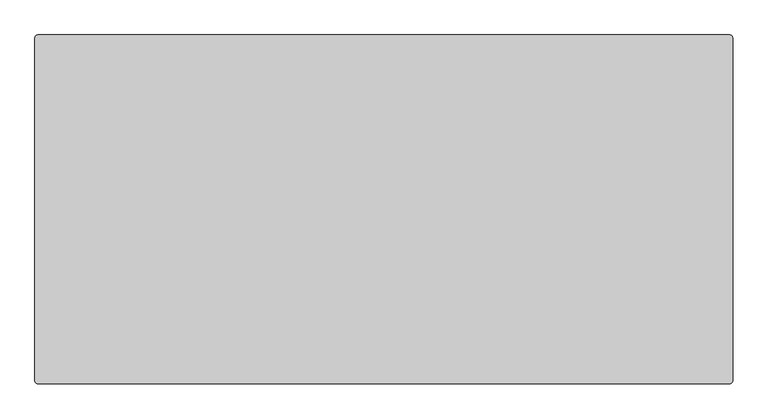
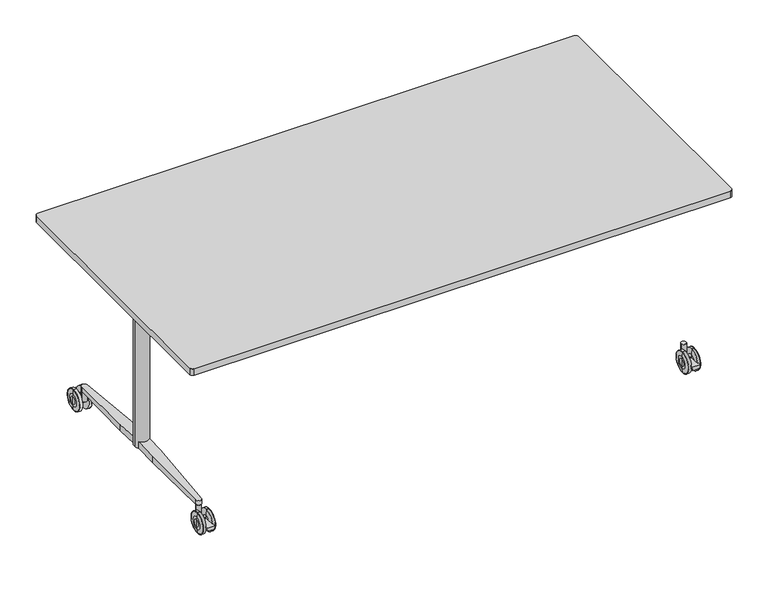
"""IFC4 building model written with IfcOpenShell, lengths in millimetres: furniture geometry."""

from ifc_helpers import new_model, si_unit, point, frame, frame_2d, origin, place, context, project, spatial, polyline, circle_curve, ellipse_curve, trimmed, segment, composite_curve, outline, extrude, source, transform, mapped, element, save
from ifc_brep_helpers import plane_surface, cylinder_surface, revolved_surface, advanced_brep


def furniture_c1721f13(model_context):
    return source(origin(), model_context, "Body", "SolidModel", [
        extrude(outline(composite_curve([segment(trimmed(circle_curve(frame_2d((-990.0, 615.9511544)), 10.0), [point((-1000.0, 615.9511544))], [point((-990.0, 625.9511544))], False, "CARTESIAN"), True, "CONTINUOUS"), segment(polyline([(-990.0, 625.9511544), (990.0, 625.9511544)]), True, "CONTINUOUS"), segment(trimmed(circle_curve(frame_2d((990.0, 615.9511544)), 10.0), [point((990.0, 625.9511544))], [point((1000.0, 615.9511544))], False, "CARTESIAN"), True, "CONTINUOUS"), segment(polyline([(1000.0, 615.9511544), (1000.0, -364.0488456)]), True, "CONTINUOUS"), segment(trimmed(circle_curve(frame_2d((990.0, -364.0488456)), 10.0), [point((1000.0, -364.0488456))], [point((990.0, -374.0488456))], False, "CARTESIAN"), True, "CONTINUOUS"), segment(polyline([(990.0, -374.0488456), (-990.0, -374.0488456)]), True, "CONTINUOUS"), segment(trimmed(circle_curve(frame_2d((-990.0, -364.0488456)), 10.0), [point((-990.0, -374.0488456))], [point((-1000.0, -364.0488456))], False, "CARTESIAN"), True, "CONTINUOUS"), segment(polyline([(-1000.0, -364.0488456), (-1000.0, 615.9511544)]), True, "CONTINUOUS")], self_intersect=False)), frame((0.0, 0.0, 705.0), z_axis=(0.0, 0.0, 1.0), x_axis=(1.0, 0.0, 0.0)), (0.0, 0.0, 1.0), 25.0),
        extrude(outline(polyline([(46.8012701, -909.9796901), (33.7579803, -907.2784737), (33.7579803, -883.5602115), (46.8012701, -880.8589951), (46.8012701, -909.9796901)])), frame((0.0, -319.0488456, 0.0), z_axis=(0.0, 1.0, 0.0), x_axis=(0.0, 0.0, 1.0)), (0.0, 0.0, 1.0), 50.0),
        extrude(outline(composite_curve([segment(trimmed(circle_curve(frame_2d((-895.5388896, -238.8396127)), 9.5), [point((-905.0388896, -238.8396127))], [point((-886.0388896, -238.8396127))], False, "CARTESIAN"), True, "CONTINUOUS"), segment(trimmed(circle_curve(frame_2d((-895.5388896, -238.8396127)), 9.5), [point((-886.0388896, -238.8396127))], [point((-905.0388896, -238.8396127))], False, "CARTESIAN"), True, "CONTINUOUS")], self_intersect=False)), frame((0.0, 0.0, 50.0000143), z_axis=(0.0, 0.0, 1.0), x_axis=(1.0, 0.0, 0.0)), (0.0, 0.0, 1.0), 38.8098324),
        advanced_brep(
        [(-870.4530674, -269.0488456, 26.9613134), (-870.4530674, -269.0488456, 53.0387194), (-870.4530674, -269.0488456, 40.0000164), (-872.5845915, -269.0488456, 0.8972162), (-872.5845915, -269.0488456, 79.1028166), (-871.0121742, -269.0488456, 63.8876748), (-871.0121742, -269.0488456, 16.1123581), (-883.5439759, -269.0488456, 1.43e-05), (-883.5439759, -269.0488456, 80.0000185), (-873.5792938, -269.0488456, 80.0000185), (-873.5792938, -269.0488456, 1.43e-05), (-885.4530966, -269.0488456, 20.9999281), (-885.4530966, -269.0488456, 59.0001048), (-885.4530966, -269.0488456, 32.3463502), (-885.4530966, -269.0488456, 47.6536826), (-905.3531174, -269.0488456, 32.3463502), (-905.3531174, -269.0488456, 47.6536826), (-905.3531174, -269.0488456, 20.9999281), (-905.3531174, -269.0488456, 59.0001048), (-907.2622381, -269.0488456, 1.43e-05), (-907.2622381, -269.0488456, 80.0000185), (-916.3249398, -269.0488456, 1.43e-05), (-916.3249398, -269.0488456, 80.0000185), (-919.7942336, -269.0488456, 16.1142331), (-919.7942336, -269.0488456, 63.8857997), (-918.3143443, -269.0488456, 78.2056147), (-918.3143443, -269.0488456, 1.7944182), (-920.3531466, -269.0488456, 40.0000164), (-920.3531466, -269.0488456, 53.0406045), (-920.3531466, -269.0488456, 26.9594284)],
        [
            (0, 1, circle_curve(frame((-870.4530674, -269.0488456, 40.0000164), z_axis=(1.0, 0.0, 0.0), x_axis=(0.0, 0.0, 1.0)), 13.038703)),
            (1, 2),
            (2, 0),
            (1, 0, circle_curve(frame((-870.4530674, -269.0488456, 40.0000164), z_axis=(1.0, 0.0, 0.0), x_axis=(0.0, 0.0, 1.0)), 13.038703)),
            (3, 4, circle_curve(frame((-872.5845915, -269.0488456, 40.0000164), z_axis=(1.0, 0.0, 0.0), x_axis=(0.0, 0.0, 1.0)), 39.1028002)),
            (4, 5),
            (5, 6, circle_curve(frame((-871.0121742, -269.0488456, 40.0000164), z_axis=(-1.0, 0.0, 0.0), x_axis=(0.0, 0.0, 1.0)), 23.8876584)),
            (6, 3),
            (4, 3, circle_curve(frame((-872.5845915, -269.0488456, 40.0000164), z_axis=(1.0, 0.0, 0.0), x_axis=(0.0, 0.0, 1.0)), 39.1028002)),
            (6, 5, circle_curve(frame((-871.0121742, -269.0488456, 40.0000164), z_axis=(-1.0, 0.0, 0.0), x_axis=(0.0, 0.0, 1.0)), 23.8876584)),
            (7, 8, circle_curve(frame((-883.5439759, -269.0488456, 40.0000164), z_axis=(1.0, 0.0, 0.0), x_axis=(0.0, 0.0, 1.0)), 40.0000021)),
            (8, 9),
            (9, 10, circle_curve(frame((-873.5792938, -269.0488456, 40.0000164), z_axis=(-1.0, 0.0, 0.0), x_axis=(0.0, 0.0, 1.0)), 40.0000021)),
            (10, 7),
            (8, 7, circle_curve(frame((-883.5439759, -269.0488456, 40.0000164), z_axis=(1.0, 0.0, 0.0), x_axis=(0.0, 0.0, 1.0)), 40.0000021)),
            (10, 9, circle_curve(frame((-873.5792938, -269.0488456, 40.0000164), z_axis=(-1.0, 0.0, 0.0), x_axis=(0.0, 0.0, 1.0)), 40.0000021)),
            (11, 12, circle_curve(frame((-885.4530966, -269.0488456, 40.0000164), z_axis=(1.0, 0.0, 0.0), x_axis=(0.0, 0.0, 1.0)), 19.0000883)),
            (12, 8),
            (7, 11),
            (12, 11, circle_curve(frame((-885.4530966, -269.0488456, 40.0000164), z_axis=(1.0, 0.0, 0.0), x_axis=(0.0, 0.0, 1.0)), 19.0000883)),
            (13, 14, circle_curve(frame((-885.4530966, -269.0488456, 40.0000164), z_axis=(1.0, 0.0, 0.0), x_axis=(0.0, 0.0, 1.0)), 7.6536662)),
            (14, 12),
            (11, 13),
            (14, 13, circle_curve(frame((-885.4530966, -269.0488456, 40.0000164), z_axis=(1.0, 0.0, 0.0), x_axis=(0.0, 0.0, 1.0)), 7.6536662)),
            (15, 16, circle_curve(frame((-905.3531174, -269.0488456, 40.0000164), z_axis=(1.0, 0.0, 0.0), x_axis=(0.0, 0.0, 1.0)), 7.6536662)),
            (16, 14),
            (13, 15),
            (16, 15, circle_curve(frame((-905.3531174, -269.0488456, 40.0000164), z_axis=(1.0, 0.0, 0.0), x_axis=(0.0, 0.0, 1.0)), 7.6536662)),
            (17, 18, circle_curve(frame((-905.3531174, -269.0488456, 40.0000164), z_axis=(1.0, 0.0, 0.0), x_axis=(0.0, 0.0, 1.0)), 19.0000883)),
            (18, 16),
            (15, 17),
            (18, 17, circle_curve(frame((-905.3531174, -269.0488456, 40.0000164), z_axis=(1.0, 0.0, 0.0), x_axis=(0.0, 0.0, 1.0)), 19.0000883)),
            (19, 20, circle_curve(frame((-907.2622381, -269.0488456, 40.0000164), z_axis=(1.0, 0.0, 0.0), x_axis=(0.0, 0.0, 1.0)), 40.0000021)),
            (20, 18),
            (17, 19),
            (20, 19, circle_curve(frame((-907.2622381, -269.0488456, 40.0000164), z_axis=(1.0, 0.0, 0.0), x_axis=(0.0, 0.0, 1.0)), 40.0000021)),
            (21, 22, circle_curve(frame((-916.3249398, -269.0488456, 40.0000164), z_axis=(1.0, 0.0, 0.0), x_axis=(0.0, 0.0, 1.0)), 40.0000021)),
            (22, 20),
            (19, 21),
            (22, 21, circle_curve(frame((-916.3249398, -269.0488456, 40.0000164), z_axis=(1.0, 0.0, 0.0), x_axis=(0.0, 0.0, 1.0)), 40.0000021)),
            (23, 24, circle_curve(frame((-919.7942336, -269.0488456, 40.0000164), z_axis=(1.0, 0.0, 0.0), x_axis=(0.0, 0.0, 1.0)), 23.8857833)),
            (24, 25),
            (25, 26, circle_curve(frame((-918.3143443, -269.0488456, 40.0000164), z_axis=(-1.0, 0.0, 0.0), x_axis=(0.0, 0.0, 1.0)), 38.2055982)),
            (26, 23),
            (24, 23, circle_curve(frame((-919.7942336, -269.0488456, 40.0000164), z_axis=(1.0, 0.0, 0.0), x_axis=(0.0, 0.0, 1.0)), 23.8857833)),
            (26, 25, circle_curve(frame((-918.3143443, -269.0488456, 40.0000164), z_axis=(-1.0, 0.0, 0.0), x_axis=(0.0, 0.0, 1.0)), 38.2055982)),
            (27, 28),
            (28, 29, circle_curve(frame((-920.3531466, -269.0488456, 40.0000164), z_axis=(-1.0, 0.0, 0.0), x_axis=(0.0, 0.0, 1.0)), 13.0405881)),
            (29, 27),
            (29, 28, circle_curve(frame((-920.3531466, -269.0488456, 40.0000164), z_axis=(-1.0, 0.0, 0.0), x_axis=(0.0, 0.0, 1.0)), 13.0405881)),
            (5, 1, circle_curve(frame((-975.9896451, -269.0488456, 53.0387194), z_axis=(0.0, 1.0, 0.0), x_axis=(-1.0, 0.0, 0.0)), 105.5365777)),
            (0, 6, circle_curve(frame((-975.9896451, -269.0488456, 26.9613134), z_axis=(0.0, 1.0, 0.0), x_axis=(-1.0, 0.0, 0.0)), 105.5365777)),
            (9, 4, circle_curve(frame((-873.5792938, -269.0488456, 79.0000185), z_axis=(0.0, 1.0, 0.0), x_axis=(-1.0, 0.0, 0.0)), 1.0)),
            (3, 10, circle_curve(frame((-873.5792938, -269.0488456, 1.0000143), z_axis=(0.0, 1.0, 0.0), x_axis=(-1.0, 0.0, 0.0)), 1.0)),
            (25, 22, circle_curve(frame((-916.3249398, -269.0488456, 78.0000185), z_axis=(0.0, 1.0, 0.0), x_axis=(-1.0, 0.0, 0.0)), 2.0)),
            (21, 26, circle_curve(frame((-916.3249398, -269.0488456, 2.0000143), z_axis=(0.0, 1.0, 0.0), x_axis=(-1.0, 0.0, 0.0)), 2.0)),
            (28, 24, circle_curve(frame((-814.8531466, -269.0488456, 53.0406045), z_axis=(0.0, 1.0, 0.0), x_axis=(-1.0, 0.0, 0.0)), 105.5)),
            (23, 29, circle_curve(frame((-814.8531466, -269.0488456, 26.9594284), z_axis=(0.0, 1.0, 0.0), x_axis=(-1.0, 0.0, 0.0)), 105.5)),
        ],
        [
            plane_surface(frame((-870.4530674, -269.0488456, 40.0000164), z_axis=(1.0, 0.0, 0.0), x_axis=(0.0, 0.0, 1.0))),
            revolved_surface(polyline([(-871.0121742, -269.0488456, 63.8876748), (-872.5845915, -269.0488456, 79.1028166)]), (-936.1531192, -269.0488456, 40.0000164), (-1.0, 0.0, 0.0)),
            cylinder_surface(frame((-936.1531192, -269.0488456, 40.0000164), z_axis=(-1.0, 0.0, 0.0), x_axis=(0.0, 0.0, 1.0)), 40.0000021),
            revolved_surface(polyline([(-883.5439759, -269.0488456, 80.0000185), (-885.4530966, -269.0488456, 59.0001048)]), (-936.1531192, -269.0488456, 40.0000164), (-1.0, 0.0, 0.0)),
            plane_surface(frame((-885.4530966, -269.0488456, 40.0000164), z_axis=(-1.0, 0.0, 0.0), x_axis=(0.0, 0.0, 1.0))),
            cylinder_surface(frame((-936.1531192, -269.0488456, 40.0000164), z_axis=(-1.0, 0.0, 0.0), x_axis=(0.0, 0.0, 1.0)), 7.6536662),
            plane_surface(frame((-905.3531174, -269.0488456, 40.0000164), z_axis=(1.0, 0.0, 0.0), x_axis=(0.0, 0.0, 1.0))),
            revolved_surface(polyline([(-905.3531174, -269.0488456, 59.0001048), (-907.2622381, -269.0488456, 80.0000185)]), (-936.1531192, -269.0488456, 40.0000164), (-1.0, 0.0, 0.0)),
            revolved_surface(polyline([(-918.3143443, -269.0488456, 78.2056147), (-919.7942336, -269.0488456, 63.8857997)]), (-936.1531192, -269.0488456, 40.0000164), (-1.0, 0.0, 0.0)),
            plane_surface(frame((-920.3531466, -269.0488456, 40.0000164), z_axis=(-1.0, 0.0, 0.0), x_axis=(0.0, 0.0, 1.0))),
            revolved_surface(trimmed(ellipse_curve(frame((-975.9896451, -269.0488456, 53.0387194), z_axis=(0.0, -1.0, 0.0), x_axis=(-1.0, 0.0, 0.0)), 105.5365777, 105.5365777), [point((-870.4530674, -269.0488456, 53.0387194))], [point((-871.0121742, -269.0488456, 63.8876748))], True, "CARTESIAN"), (-936.1531192, -269.0488456, 40.0000164), (-1.0, 0.0, 0.0)),
            revolved_surface(trimmed(ellipse_curve(frame((-873.5792938, -269.0488456, 79.0000185), z_axis=(0.0, -1.0, 0.0), x_axis=(-1.0, 0.0, 0.0)), 1.0, 1.0), [point((-872.5845915, -269.0488456, 79.1028166))], [point((-873.5792938, -269.0488456, 80.0000185))], True, "CARTESIAN"), (-936.1531192, -269.0488456, 40.0000164), (-1.0, 0.0, 0.0)),
            revolved_surface(trimmed(ellipse_curve(frame((-916.3249398, -269.0488456, 78.0000185), z_axis=(0.0, -1.0, 0.0), x_axis=(-1.0, 0.0, 0.0)), 2.0, 2.0), [point((-916.3249398, -269.0488456, 80.0000185))], [point((-918.3143443, -269.0488456, 78.2056147))], True, "CARTESIAN"), (-936.1531192, -269.0488456, 40.0000164), (-1.0, 0.0, 0.0)),
            revolved_surface(trimmed(ellipse_curve(frame((-814.8531466, -269.0488456, 53.0406045), z_axis=(0.0, -1.0, 0.0), x_axis=(-1.0, 0.0, 0.0)), 105.5, 105.5), [point((-919.7942336, -269.0488456, 63.8857997))], [point((-920.3531466, -269.0488456, 53.0406045))], True, "CARTESIAN"), (-936.1531192, -269.0488456, 40.0000164), (-1.0, 0.0, 0.0)),
        ],
        [
            (0, [[1, 2, 3]]),
            (0, [[4, -3, -2]]),
            (1, [[5, 6, 7, 8]]),
            (1, [[9, -8, 10, -6]]),
            (2, [[11, 12, 13, 14]]),
            (2, [[15, -14, 16, -12]]),
            (3, [[17, 18, -11, 19]]),
            (3, [[20, -19, -15, -18]]),
            (4, [[21, 22, -17, 23]]),
            (4, [[24, -23, -20, -22]]),
            (5, [[25, 26, -21, 27]]),
            (5, [[28, -27, -24, -26]]),
            (6, [[29, 30, -25, 31]]),
            (6, [[32, -31, -28, -30]]),
            (7, [[33, 34, -29, 35]]),
            (7, [[36, -35, -32, -34]]),
            (2, [[37, 38, -33, 39]]),
            (2, [[40, -39, -36, -38]]),
            (8, [[41, 42, 43, 44]]),
            (8, [[45, -44, 46, -42]]),
            (9, [[47, 48, 49]]),
            (9, [[-49, 50, -47]]),
            (10, [[-7, 51, -1, 52]]),
            (10, [[-10, -52, -4, -51]]),
            (11, [[-13, 53, -5, 54]]),
            (11, [[-16, -54, -9, -53]]),
            (12, [[-43, 55, -37, 56]]),
            (12, [[-46, -56, -40, -55]]),
            (13, [[-48, 57, -41, 58]]),
            (13, [[-50, -58, -45, -57]]),
        ],
    ),
        extrude(outline(polyline([(46.8012701, 909.9796901), (46.8012701, 880.8589951), (33.7579803, 883.5602115), (33.7579803, 907.2784737), (46.8012701, 909.9796901)])), frame((0.0, -319.0488456, 0.0), z_axis=(0.0, 1.0, 0.0), x_axis=(0.0, 0.0, 1.0)), (0.0, 0.0, 1.0), 50.0),
        extrude(outline(composite_curve([segment(trimmed(circle_curve(frame_2d((895.5388896, -238.8396127)), 9.5), [point((905.0388896, -238.8396127))], [point((886.0388896, -238.8396127))], False, "CARTESIAN"), True, "CONTINUOUS"), segment(trimmed(circle_curve(frame_2d((895.5388896, -238.8396127)), 9.5), [point((886.0388896, -238.8396127))], [point((905.0388896, -238.8396127))], False, "CARTESIAN"), True, "CONTINUOUS")], self_intersect=False)), frame((0.0, 0.0, 50.0000143), z_axis=(0.0, 0.0, 1.0), x_axis=(1.0, 0.0, 0.0)), (0.0, 0.0, 1.0), 38.8098324),
        advanced_brep(
        [(870.4530674, -269.0488456, 40.0000164), (870.4530674, -269.0488456, 53.0387194), (870.4530674, -269.0488456, 26.9613134), (871.0121742, -269.0488456, 16.1123581), (871.0121742, -269.0488456, 63.8876748), (872.5845915, -269.0488456, 79.1028166), (872.5845915, -269.0488456, 0.8972162), (873.5792938, -269.0488456, 1.43e-05), (873.5792938, -269.0488456, 80.0000185), (883.5439759, -269.0488456, 80.0000185), (883.5439759, -269.0488456, 1.43e-05), (885.4530966, -269.0488456, 59.0001048), (885.4530966, -269.0488456, 20.9999281), (885.4530966, -269.0488456, 47.6536826), (885.4530966, -269.0488456, 32.3463502), (905.3531174, -269.0488456, 47.6536826), (905.3531174, -269.0488456, 32.3463502), (905.3531174, -269.0488456, 59.0001048), (905.3531174, -269.0488456, 20.9999281), (907.2622381, -269.0488456, 80.0000185), (907.2622381, -269.0488456, 1.43e-05), (916.3249398, -269.0488456, 80.0000185), (916.3249398, -269.0488456, 1.43e-05), (918.3143443, -269.0488456, 1.7944182), (918.3143443, -269.0488456, 78.2056147), (919.7942336, -269.0488456, 63.8857997), (919.7942336, -269.0488456, 16.1142331), (920.3531466, -269.0488456, 26.9594284), (920.3531466, -269.0488456, 53.0406045), (920.3531466, -269.0488456, 40.0000164)],
        [
            (0, 1),
            (1, 2, circle_curve(frame((870.4530674, -269.0488456, 40.0000164), z_axis=(-1.0, 0.0, 0.0), x_axis=(0.0, 0.0, 1.0)), 13.038703)),
            (2, 0),
            (2, 1, circle_curve(frame((870.4530674, -269.0488456, 40.0000164), z_axis=(-1.0, 0.0, 0.0), x_axis=(0.0, 0.0, 1.0)), 13.038703)),
            (3, 4, circle_curve(frame((871.0121742, -269.0488456, 40.0000164), z_axis=(1.0, 0.0, 0.0), x_axis=(0.0, 0.0, 1.0)), 23.8876584)),
            (4, 5),
            (5, 6, circle_curve(frame((872.5845915, -269.0488456, 40.0000164), z_axis=(-1.0, 0.0, 0.0), x_axis=(0.0, 0.0, 1.0)), 39.1028002)),
            (6, 3),
            (4, 3, circle_curve(frame((871.0121742, -269.0488456, 40.0000164), z_axis=(1.0, 0.0, 0.0), x_axis=(0.0, 0.0, 1.0)), 23.8876584)),
            (6, 5, circle_curve(frame((872.5845915, -269.0488456, 40.0000164), z_axis=(-1.0, 0.0, 0.0), x_axis=(0.0, 0.0, 1.0)), 39.1028002)),
            (7, 8, circle_curve(frame((873.5792938, -269.0488456, 40.0000164), z_axis=(1.0, 0.0, 0.0), x_axis=(0.0, 0.0, 1.0)), 40.0000021)),
            (8, 9),
            (9, 10, circle_curve(frame((883.5439759, -269.0488456, 40.0000164), z_axis=(-1.0, 0.0, 0.0), x_axis=(0.0, 0.0, 1.0)), 40.0000021)),
            (10, 7),
            (8, 7, circle_curve(frame((873.5792938, -269.0488456, 40.0000164), z_axis=(1.0, 0.0, 0.0), x_axis=(0.0, 0.0, 1.0)), 40.0000021)),
            (10, 9, circle_curve(frame((883.5439759, -269.0488456, 40.0000164), z_axis=(-1.0, 0.0, 0.0), x_axis=(0.0, 0.0, 1.0)), 40.0000021)),
            (9, 11),
            (11, 12, circle_curve(frame((885.4530966, -269.0488456, 40.0000164), z_axis=(-1.0, 0.0, 0.0), x_axis=(0.0, 0.0, 1.0)), 19.0000883)),
            (12, 10),
            (12, 11, circle_curve(frame((885.4530966, -269.0488456, 40.0000164), z_axis=(-1.0, 0.0, 0.0), x_axis=(0.0, 0.0, 1.0)), 19.0000883)),
            (11, 13),
            (13, 14, circle_curve(frame((885.4530966, -269.0488456, 40.0000164), z_axis=(-1.0, 0.0, 0.0), x_axis=(0.0, 0.0, 1.0)), 7.6536662)),
            (14, 12),
            (14, 13, circle_curve(frame((885.4530966, -269.0488456, 40.0000164), z_axis=(-1.0, 0.0, 0.0), x_axis=(0.0, 0.0, 1.0)), 7.6536662)),
            (13, 15),
            (15, 16, circle_curve(frame((905.3531174, -269.0488456, 40.0000164), z_axis=(-1.0, 0.0, 0.0), x_axis=(0.0, 0.0, 1.0)), 7.6536662)),
            (16, 14),
            (16, 15, circle_curve(frame((905.3531174, -269.0488456, 40.0000164), z_axis=(-1.0, 0.0, 0.0), x_axis=(0.0, 0.0, 1.0)), 7.6536662)),
            (15, 17),
            (17, 18, circle_curve(frame((905.3531174, -269.0488456, 40.0000164), z_axis=(-1.0, 0.0, 0.0), x_axis=(0.0, 0.0, 1.0)), 19.0000883)),
            (18, 16),
            (18, 17, circle_curve(frame((905.3531174, -269.0488456, 40.0000164), z_axis=(-1.0, 0.0, 0.0), x_axis=(0.0, 0.0, 1.0)), 19.0000883)),
            (17, 19),
            (19, 20, circle_curve(frame((907.2622381, -269.0488456, 40.0000164), z_axis=(-1.0, 0.0, 0.0), x_axis=(0.0, 0.0, 1.0)), 40.0000021)),
            (20, 18),
            (20, 19, circle_curve(frame((907.2622381, -269.0488456, 40.0000164), z_axis=(-1.0, 0.0, 0.0), x_axis=(0.0, 0.0, 1.0)), 40.0000021)),
            (19, 21),
            (21, 22, circle_curve(frame((916.3249398, -269.0488456, 40.0000164), z_axis=(-1.0, 0.0, 0.0), x_axis=(0.0, 0.0, 1.0)), 40.0000021)),
            (22, 20),
            (22, 21, circle_curve(frame((916.3249398, -269.0488456, 40.0000164), z_axis=(-1.0, 0.0, 0.0), x_axis=(0.0, 0.0, 1.0)), 40.0000021)),
            (23, 24, circle_curve(frame((918.3143443, -269.0488456, 40.0000164), z_axis=(1.0, 0.0, 0.0), x_axis=(0.0, 0.0, 1.0)), 38.2055982)),
            (24, 25),
            (25, 26, circle_curve(frame((919.7942336, -269.0488456, 40.0000164), z_axis=(-1.0, 0.0, 0.0), x_axis=(0.0, 0.0, 1.0)), 23.8857833)),
            (26, 23),
            (24, 23, circle_curve(frame((918.3143443, -269.0488456, 40.0000164), z_axis=(1.0, 0.0, 0.0), x_axis=(0.0, 0.0, 1.0)), 38.2055982)),
            (26, 25, circle_curve(frame((919.7942336, -269.0488456, 40.0000164), z_axis=(-1.0, 0.0, 0.0), x_axis=(0.0, 0.0, 1.0)), 23.8857833)),
            (27, 28, circle_curve(frame((920.3531466, -269.0488456, 40.0000164), z_axis=(1.0, 0.0, 0.0), x_axis=(0.0, 0.0, 1.0)), 13.0405881)),
            (28, 29),
            (29, 27),
            (28, 27, circle_curve(frame((920.3531466, -269.0488456, 40.0000164), z_axis=(1.0, 0.0, 0.0), x_axis=(0.0, 0.0, 1.0)), 13.0405881)),
            (1, 4, circle_curve(frame((975.9896451, -269.0488456, 53.0387194), z_axis=(0.0, 1.0, 0.0), x_axis=(-1.0, 0.0, 0.0)), 105.5365777)),
            (3, 2, circle_curve(frame((975.9896451, -269.0488456, 26.9613134), z_axis=(0.0, 1.0, 0.0), x_axis=(-1.0, 0.0, 0.0)), 105.5365777)),
            (5, 8, circle_curve(frame((873.5792938, -269.0488456, 79.0000185), z_axis=(0.0, 1.0, 0.0), x_axis=(-1.0, 0.0, 0.0)), 1.0)),
            (7, 6, circle_curve(frame((873.5792938, -269.0488456, 1.0000143), z_axis=(0.0, 1.0, 0.0), x_axis=(-1.0, 0.0, 0.0)), 1.0)),
            (21, 24, circle_curve(frame((916.3249398, -269.0488456, 78.0000185), z_axis=(0.0, 1.0, 0.0), x_axis=(-1.0, 0.0, 0.0)), 2.0)),
            (23, 22, circle_curve(frame((916.3249398, -269.0488456, 2.0000143), z_axis=(0.0, 1.0, 0.0), x_axis=(-1.0, 0.0, 0.0)), 2.0)),
            (25, 28, circle_curve(frame((814.8531466, -269.0488456, 53.0406045), z_axis=(0.0, 1.0, 0.0), x_axis=(-1.0, 0.0, 0.0)), 105.5)),
            (27, 26, circle_curve(frame((814.8531466, -269.0488456, 26.9594284), z_axis=(0.0, 1.0, 0.0), x_axis=(-1.0, 0.0, 0.0)), 105.5)),
        ],
        [
            plane_surface(frame((870.4530674, -269.0488456, 40.0000164), z_axis=(-1.0, 0.0, 0.0), x_axis=(0.0, 0.0, 1.0))),
            revolved_surface(polyline([(872.5845915, -269.0488456, 79.1028166), (871.0121742, -269.0488456, 63.8876748)]), (936.1531192, -269.0488456, 40.0000164), (-1.0, 0.0, 0.0)),
            cylinder_surface(frame((936.1531192, -269.0488456, 40.0000164), z_axis=(-1.0, 0.0, 0.0), x_axis=(0.0, 0.0, 1.0)), 40.0000021),
            revolved_surface(polyline([(885.4530966, -269.0488456, 59.0001048), (883.5439759, -269.0488456, 80.0000185)]), (936.1531192, -269.0488456, 40.0000164), (-1.0, 0.0, 0.0)),
            plane_surface(frame((885.4530966, -269.0488456, 40.0000164), z_axis=(1.0, 0.0, 0.0), x_axis=(0.0, 0.0, 1.0))),
            cylinder_surface(frame((936.1531192, -269.0488456, 40.0000164), z_axis=(-1.0, 0.0, 0.0), x_axis=(0.0, 0.0, 1.0)), 7.6536662),
            plane_surface(frame((905.3531174, -269.0488456, 40.0000164), z_axis=(-1.0, 0.0, 0.0), x_axis=(0.0, 0.0, 1.0))),
            revolved_surface(polyline([(907.2622381, -269.0488456, 80.0000185), (905.3531174, -269.0488456, 59.0001048)]), (936.1531192, -269.0488456, 40.0000164), (-1.0, 0.0, 0.0)),
            revolved_surface(polyline([(919.7942336, -269.0488456, 63.8857997), (918.3143443, -269.0488456, 78.2056147)]), (936.1531192, -269.0488456, 40.0000164), (-1.0, 0.0, 0.0)),
            plane_surface(frame((920.3531466, -269.0488456, 40.0000164), z_axis=(1.0, 0.0, 0.0), x_axis=(0.0, 0.0, 1.0))),
            revolved_surface(trimmed(ellipse_curve(frame((975.9896451, -269.0488456, 53.0387194), z_axis=(0.0, -1.0, 0.0), x_axis=(-1.0, 0.0, 0.0)), 105.5365777, 105.5365777), [point((871.0121742, -269.0488456, 63.8876748))], [point((870.4530674, -269.0488456, 53.0387194))], True, "CARTESIAN"), (936.1531192, -269.0488456, 40.0000164), (-1.0, 0.0, 0.0)),
            revolved_surface(trimmed(ellipse_curve(frame((873.5792938, -269.0488456, 79.0000185), z_axis=(0.0, -1.0, 0.0), x_axis=(-1.0, 0.0, 0.0)), 1.0, 1.0), [point((873.5792938, -269.0488456, 80.0000185))], [point((872.5845915, -269.0488456, 79.1028166))], True, "CARTESIAN"), (936.1531192, -269.0488456, 40.0000164), (-1.0, 0.0, 0.0)),
            revolved_surface(trimmed(ellipse_curve(frame((916.3249398, -269.0488456, 78.0000185), z_axis=(0.0, -1.0, 0.0), x_axis=(-1.0, 0.0, 0.0)), 2.0, 2.0), [point((918.3143443, -269.0488456, 78.2056147))], [point((916.3249398, -269.0488456, 80.0000185))], True, "CARTESIAN"), (936.1531192, -269.0488456, 40.0000164), (-1.0, 0.0, 0.0)),
            revolved_surface(trimmed(ellipse_curve(frame((814.8531466, -269.0488456, 53.0406045), z_axis=(0.0, -1.0, 0.0), x_axis=(-1.0, 0.0, 0.0)), 105.5, 105.5), [point((920.3531466, -269.0488456, 53.0406045))], [point((919.7942336, -269.0488456, 63.8857997))], True, "CARTESIAN"), (936.1531192, -269.0488456, 40.0000164), (-1.0, 0.0, 0.0)),
        ],
        [
            (0, [[1, 2, 3]]),
            (0, [[-3, 4, -1]]),
            (1, [[5, 6, 7, 8]]),
            (1, [[9, -8, 10, -6]]),
            (2, [[11, 12, 13, 14]]),
            (2, [[15, -14, 16, -12]]),
            (3, [[-13, 17, 18, 19]]),
            (3, [[-16, -19, 20, -17]]),
            (4, [[-18, 21, 22, 23]]),
            (4, [[-20, -23, 24, -21]]),
            (5, [[-22, 25, 26, 27]]),
            (5, [[-24, -27, 28, -25]]),
            (6, [[-26, 29, 30, 31]]),
            (6, [[-28, -31, 32, -29]]),
            (7, [[-30, 33, 34, 35]]),
            (7, [[-32, -35, 36, -33]]),
            (2, [[-34, 37, 38, 39]]),
            (2, [[-36, -39, 40, -37]]),
            (8, [[41, 42, 43, 44]]),
            (8, [[45, -44, 46, -42]]),
            (9, [[47, 48, 49]]),
            (9, [[50, -49, -48]]),
            (10, [[-2, 51, -5, 52]]),
            (10, [[-4, -52, -9, -51]]),
            (11, [[-7, 53, -11, 54]]),
            (11, [[-10, -54, -15, -53]]),
            (12, [[-38, 55, -41, 56]]),
            (12, [[-40, -56, -45, -55]]),
            (13, [[-43, 57, -47, 58]]),
            (13, [[-46, -58, -50, -57]]),
        ],
    ),
        extrude(outline(composite_curve([segment(trimmed(circle_curve(frame_2d((-894.9999748, 125.9511544)), 20.0), [point((-914.9999748, 125.9511544))], [point((-874.9999748, 125.9511544))], False, "CARTESIAN"), True, "CONTINUOUS"), segment(trimmed(circle_curve(frame_2d((-894.9999748, 125.9511544)), 20.0), [point((-874.9999748, 125.9511544))], [point((-914.9999748, 125.9511544))], False, "CARTESIAN"), True, "CONTINUOUS")], self_intersect=False)), frame((0.0, 0.0, 656.2373886), z_axis=(0.0, 0.0, 1.0), x_axis=(1.0, 0.0, 0.0)), (0.0, 0.0, 1.0), 15.9928755),
        extrude(outline(composite_curve([segment(trimmed(circle_curve(frame_2d((-894.9999748, 125.9511544)), 22.0748856), [point((-872.9250892, 125.9511544))], [point((-917.0748605, 125.9511544))], False, "CARTESIAN"), True, "CONTINUOUS"), segment(trimmed(circle_curve(frame_2d((-894.9999748, 125.9511544)), 22.0748856), [point((-917.0748605, 125.9511544))], [point((-872.9250892, 125.9511544))], False, "CARTESIAN"), True, "CONTINUOUS")], self_intersect=False)), frame((0.0, 0.0, 648.5142032), z_axis=(0.0, 0.0, 1.0), x_axis=(1.0, 0.0, 0.0)), (0.0, 0.0, 1.0), 7.7231854),
        extrude(outline(composite_curve([segment(trimmed(circle_curve(frame_2d((-894.9999748, 125.9511544)), 21.8066495), [point((-873.1933253, 125.9511544))], [point((-916.8066244, 125.9511544))], False, "CARTESIAN"), True, "CONTINUOUS"), segment(trimmed(circle_curve(frame_2d((-894.9999748, 125.9511544)), 21.8066495), [point((-916.8066244, 125.9511544))], [point((-873.1933253, 125.9511544))], False, "CARTESIAN"), True, "CONTINUOUS")], self_intersect=False)), frame((0.0, 0.0, 672.2302641), z_axis=(0.0, 0.0, 1.0), x_axis=(1.0, 0.0, 0.0)), (0.0, 0.0, 1.0), 12.7697121),
        extrude(outline(composite_curve([segment(trimmed(circle_curve(frame_2d((895.0000252, 125.9511544)), 20.0), [point((875.0000252, 125.9511544))], [point((915.0000252, 125.9511544))], False, "CARTESIAN"), True, "CONTINUOUS"), segment(trimmed(circle_curve(frame_2d((895.0000252, 125.9511544)), 20.0), [point((915.0000252, 125.9511544))], [point((875.0000252, 125.9511544))], False, "CARTESIAN"), True, "CONTINUOUS")], self_intersect=False)), frame((0.0, 0.0, 656.2373886), z_axis=(0.0, 0.0, 1.0), x_axis=(1.0, 0.0, 0.0)), (0.0, 0.0, 1.0), 15.9928755),
        advanced_brep(
        [(-870.4530674, 520.9511544, 40.0000164), (-870.4530674, 520.9511544, 53.0387194), (-870.4530674, 520.9511544, 26.9613134), (-871.0121742, 520.9511544, 16.1123581), (-871.0121742, 520.9511544, 63.8876748), (-872.5845915, 520.9511544, 79.1028166), (-872.5845915, 520.9511544, 0.8972162), (-873.5792938, 520.9511544, 1.43e-05), (-873.5792938, 520.9511544, 80.0000185), (-883.5439759, 520.9511544, 80.0000185), (-883.5439759, 520.9511544, 1.43e-05), (-885.4530966, 520.9511544, 59.0001048), (-885.4530966, 520.9511544, 20.9999281), (-885.4530966, 520.9511544, 47.6536826), (-885.4530966, 520.9511544, 32.3463502), (-905.3531174, 520.9511544, 47.6536826), (-905.3531174, 520.9511544, 32.3463502), (-905.3531174, 520.9511544, 59.0001048), (-905.3531174, 520.9511544, 20.9999281), (-907.2622381, 520.9511544, 80.0000185), (-907.2622381, 520.9511544, 1.43e-05), (-916.3249398, 520.9511544, 80.0000185), (-916.3249398, 520.9511544, 1.43e-05), (-918.3143443, 520.9511544, 1.7944182), (-918.3143443, 520.9511544, 78.2056147), (-919.7942336, 520.9511544, 63.8857997), (-919.7942336, 520.9511544, 16.1142331), (-920.3531466, 520.9511544, 26.9594284), (-920.3531466, 520.9511544, 53.0406045), (-920.3531466, 520.9511544, 40.0000164)],
        [
            (0, 1),
            (1, 2, circle_curve(frame((-870.4530674, 520.9511544, 40.0000164), z_axis=(1.0, 0.0, 0.0), x_axis=(0.0, 0.0, 1.0)), 13.038703)),
            (2, 0),
            (2, 1, circle_curve(frame((-870.4530674, 520.9511544, 40.0000164), z_axis=(1.0, 0.0, 0.0), x_axis=(0.0, 0.0, 1.0)), 13.038703)),
            (3, 4, circle_curve(frame((-871.0121742, 520.9511544, 40.0000164), z_axis=(-1.0, 0.0, 0.0), x_axis=(0.0, 0.0, 1.0)), 23.8876584)),
            (4, 5),
            (5, 6, circle_curve(frame((-872.5845915, 520.9511544, 40.0000164), z_axis=(1.0, 0.0, 0.0), x_axis=(0.0, 0.0, 1.0)), 39.1028002)),
            (6, 3),
            (4, 3, circle_curve(frame((-871.0121742, 520.9511544, 40.0000164), z_axis=(-1.0, 0.0, 0.0), x_axis=(0.0, 0.0, 1.0)), 23.8876584)),
            (6, 5, circle_curve(frame((-872.5845915, 520.9511544, 40.0000164), z_axis=(1.0, 0.0, 0.0), x_axis=(0.0, 0.0, 1.0)), 39.1028002)),
            (7, 8, circle_curve(frame((-873.5792938, 520.9511544, 40.0000164), z_axis=(-1.0, 0.0, 0.0), x_axis=(0.0, 0.0, 1.0)), 40.0000021)),
            (8, 9),
            (9, 10, circle_curve(frame((-883.5439759, 520.9511544, 40.0000164), z_axis=(1.0, 0.0, 0.0), x_axis=(0.0, 0.0, 1.0)), 40.0000021)),
            (10, 7),
            (8, 7, circle_curve(frame((-873.5792938, 520.9511544, 40.0000164), z_axis=(-1.0, 0.0, 0.0), x_axis=(0.0, 0.0, 1.0)), 40.0000021)),
            (10, 9, circle_curve(frame((-883.5439759, 520.9511544, 40.0000164), z_axis=(1.0, 0.0, 0.0), x_axis=(0.0, 0.0, 1.0)), 40.0000021)),
            (9, 11),
            (11, 12, circle_curve(frame((-885.4530966, 520.9511544, 40.0000164), z_axis=(1.0, 0.0, 0.0), x_axis=(0.0, 0.0, 1.0)), 19.0000883)),
            (12, 10),
            (12, 11, circle_curve(frame((-885.4530966, 520.9511544, 40.0000164), z_axis=(1.0, 0.0, 0.0), x_axis=(0.0, 0.0, 1.0)), 19.0000883)),
            (11, 13),
            (13, 14, circle_curve(frame((-885.4530966, 520.9511544, 40.0000164), z_axis=(1.0, 0.0, 0.0), x_axis=(0.0, 0.0, 1.0)), 7.6536662)),
            (14, 12),
            (14, 13, circle_curve(frame((-885.4530966, 520.9511544, 40.0000164), z_axis=(1.0, 0.0, 0.0), x_axis=(0.0, 0.0, 1.0)), 7.6536662)),
            (13, 15),
            (15, 16, circle_curve(frame((-905.3531174, 520.9511544, 40.0000164), z_axis=(1.0, 0.0, 0.0), x_axis=(0.0, 0.0, 1.0)), 7.6536662)),
            (16, 14),
            (16, 15, circle_curve(frame((-905.3531174, 520.9511544, 40.0000164), z_axis=(1.0, 0.0, 0.0), x_axis=(0.0, 0.0, 1.0)), 7.6536662)),
            (15, 17),
            (17, 18, circle_curve(frame((-905.3531174, 520.9511544, 40.0000164), z_axis=(1.0, 0.0, 0.0), x_axis=(0.0, 0.0, 1.0)), 19.0000883)),
            (18, 16),
            (18, 17, circle_curve(frame((-905.3531174, 520.9511544, 40.0000164), z_axis=(1.0, 0.0, 0.0), x_axis=(0.0, 0.0, 1.0)), 19.0000883)),
            (17, 19),
            (19, 20, circle_curve(frame((-907.2622381, 520.9511544, 40.0000164), z_axis=(1.0, 0.0, 0.0), x_axis=(0.0, 0.0, 1.0)), 40.0000021)),
            (20, 18),
            (20, 19, circle_curve(frame((-907.2622381, 520.9511544, 40.0000164), z_axis=(1.0, 0.0, 0.0), x_axis=(0.0, 0.0, 1.0)), 40.0000021)),
            (19, 21),
            (21, 22, circle_curve(frame((-916.3249398, 520.9511544, 40.0000164), z_axis=(1.0, 0.0, 0.0), x_axis=(0.0, 0.0, 1.0)), 40.0000021)),
            (22, 20),
            (22, 21, circle_curve(frame((-916.3249398, 520.9511544, 40.0000164), z_axis=(1.0, 0.0, 0.0), x_axis=(0.0, 0.0, 1.0)), 40.0000021)),
            (23, 24, circle_curve(frame((-918.3143443, 520.9511544, 40.0000164), z_axis=(-1.0, 0.0, 0.0), x_axis=(0.0, 0.0, 1.0)), 38.2055982)),
            (24, 25),
            (25, 26, circle_curve(frame((-919.7942336, 520.9511544, 40.0000164), z_axis=(1.0, 0.0, 0.0), x_axis=(0.0, 0.0, 1.0)), 23.8857833)),
            (26, 23),
            (24, 23, circle_curve(frame((-918.3143443, 520.9511544, 40.0000164), z_axis=(-1.0, 0.0, 0.0), x_axis=(0.0, 0.0, 1.0)), 38.2055982)),
            (26, 25, circle_curve(frame((-919.7942336, 520.9511544, 40.0000164), z_axis=(1.0, 0.0, 0.0), x_axis=(0.0, 0.0, 1.0)), 23.8857833)),
            (27, 28, circle_curve(frame((-920.3531466, 520.9511544, 40.0000164), z_axis=(-1.0, 0.0, 0.0), x_axis=(0.0, 0.0, 1.0)), 13.0405881)),
            (28, 29),
            (29, 27),
            (28, 27, circle_curve(frame((-920.3531466, 520.9511544, 40.0000164), z_axis=(-1.0, 0.0, 0.0), x_axis=(0.0, 0.0, 1.0)), 13.0405881)),
            (1, 4, circle_curve(frame((-975.9896451, 520.9511544, 53.0387194), z_axis=(0.0, -1.0, 0.0), x_axis=(-1.0, 0.0, 0.0)), 105.5365777)),
            (3, 2, circle_curve(frame((-975.9896451, 520.9511544, 26.9613134), z_axis=(0.0, -1.0, 0.0), x_axis=(-1.0, 0.0, 0.0)), 105.5365777)),
            (5, 8, circle_curve(frame((-873.5792938, 520.9511544, 79.0000185), z_axis=(0.0, -1.0, 0.0), x_axis=(-1.0, 0.0, 0.0)), 1.0)),
            (7, 6, circle_curve(frame((-873.5792938, 520.9511544, 1.0000143), z_axis=(0.0, -1.0, 0.0), x_axis=(-1.0, 0.0, 0.0)), 1.0)),
            (21, 24, circle_curve(frame((-916.3249398, 520.9511544, 78.0000185), z_axis=(0.0, -1.0, 0.0), x_axis=(-1.0, 0.0, 0.0)), 2.0)),
            (23, 22, circle_curve(frame((-916.3249398, 520.9511544, 2.0000143), z_axis=(0.0, -1.0, 0.0), x_axis=(-1.0, 0.0, 0.0)), 2.0)),
            (25, 28, circle_curve(frame((-814.8531466, 520.9511544, 53.0406045), z_axis=(0.0, -1.0, 0.0), x_axis=(-1.0, 0.0, 0.0)), 105.5)),
            (27, 26, circle_curve(frame((-814.8531466, 520.9511544, 26.9594284), z_axis=(0.0, -1.0, 0.0), x_axis=(-1.0, 0.0, 0.0)), 105.5)),
        ],
        [
            plane_surface(frame((-870.4530674, 520.9511544, 40.0000164), z_axis=(1.0, 0.0, 0.0), x_axis=(0.0, 0.0, 1.0))),
            revolved_surface(polyline([(-872.5845915, 520.9511544, 79.1028166), (-871.0121742, 520.9511544, 63.8876748)]), (-936.1531192, 520.9511544, 40.0000164), (1.0, 0.0, 0.0)),
            cylinder_surface(frame((-936.1531192, 520.9511544, 40.0000164), z_axis=(1.0, 0.0, 0.0), x_axis=(0.0, 0.0, 1.0)), 40.0000021),
            revolved_surface(polyline([(-885.4530966, 520.9511544, 59.0001048), (-883.5439759, 520.9511544, 80.0000185)]), (-936.1531192, 520.9511544, 40.0000164), (1.0, 0.0, 0.0)),
            plane_surface(frame((-885.4530966, 520.9511544, 40.0000164), z_axis=(-1.0, 0.0, 0.0), x_axis=(0.0, 0.0, 1.0))),
            cylinder_surface(frame((-936.1531192, 520.9511544, 40.0000164), z_axis=(1.0, 0.0, 0.0), x_axis=(0.0, 0.0, 1.0)), 7.6536662),
            plane_surface(frame((-905.3531174, 520.9511544, 40.0000164), z_axis=(1.0, 0.0, 0.0), x_axis=(0.0, 0.0, 1.0))),
            revolved_surface(polyline([(-907.2622381, 520.9511544, 80.0000185), (-905.3531174, 520.9511544, 59.0001048)]), (-936.1531192, 520.9511544, 40.0000164), (1.0, 0.0, 0.0)),
            revolved_surface(polyline([(-919.7942336, 520.9511544, 63.8857997), (-918.3143443, 520.9511544, 78.2056147)]), (-936.1531192, 520.9511544, 40.0000164), (1.0, 0.0, 0.0)),
            plane_surface(frame((-920.3531466, 520.9511544, 40.0000164), z_axis=(-1.0, 0.0, 0.0), x_axis=(0.0, 0.0, 1.0))),
            revolved_surface(trimmed(ellipse_curve(frame((-975.9896451, 520.9511544, 53.0387194), z_axis=(0.0, 1.0, 0.0), x_axis=(-1.0, 0.0, 0.0)), 105.5365777, 105.5365777), [point((-871.0121742, 520.9511544, 63.8876748))], [point((-870.4530674, 520.9511544, 53.0387194))], True, "CARTESIAN"), (-936.1531192, 520.9511544, 40.0000164), (1.0, 0.0, 0.0)),
            revolved_surface(trimmed(ellipse_curve(frame((-873.5792938, 520.9511544, 79.0000185), z_axis=(0.0, 1.0, 0.0), x_axis=(-1.0, 0.0, 0.0)), 1.0, 1.0), [point((-873.5792938, 520.9511544, 80.0000185))], [point((-872.5845915, 520.9511544, 79.1028166))], True, "CARTESIAN"), (-936.1531192, 520.9511544, 40.0000164), (1.0, 0.0, 0.0)),
            revolved_surface(trimmed(ellipse_curve(frame((-916.3249398, 520.9511544, 78.0000185), z_axis=(0.0, 1.0, 0.0), x_axis=(-1.0, 0.0, 0.0)), 2.0, 2.0), [point((-918.3143443, 520.9511544, 78.2056147))], [point((-916.3249398, 520.9511544, 80.0000185))], True, "CARTESIAN"), (-936.1531192, 520.9511544, 40.0000164), (1.0, 0.0, 0.0)),
            revolved_surface(trimmed(ellipse_curve(frame((-814.8531466, 520.9511544, 53.0406045), z_axis=(0.0, 1.0, 0.0), x_axis=(-1.0, 0.0, 0.0)), 105.5, 105.5), [point((-920.3531466, 520.9511544, 53.0406045))], [point((-919.7942336, 520.9511544, 63.8857997))], True, "CARTESIAN"), (-936.1531192, 520.9511544, 40.0000164), (1.0, 0.0, 0.0)),
        ],
        [
            (0, [[1, 2, 3]]),
            (0, [[-3, 4, -1]]),
            (1, [[5, 6, 7, 8]]),
            (1, [[9, -8, 10, -6]]),
            (2, [[11, 12, 13, 14]]),
            (2, [[15, -14, 16, -12]]),
            (3, [[-13, 17, 18, 19]]),
            (3, [[-16, -19, 20, -17]]),
            (4, [[-18, 21, 22, 23]]),
            (4, [[-20, -23, 24, -21]]),
            (5, [[-22, 25, 26, 27]]),
            (5, [[-24, -27, 28, -25]]),
            (6, [[-26, 29, 30, 31]]),
            (6, [[-28, -31, 32, -29]]),
            (7, [[-30, 33, 34, 35]]),
            (7, [[-32, -35, 36, -33]]),
            (2, [[-34, 37, 38, 39]]),
            (2, [[-36, -39, 40, -37]]),
            (8, [[41, 42, 43, 44]]),
            (8, [[45, -44, 46, -42]]),
            (9, [[47, 48, 49]]),
            (9, [[50, -49, -48]]),
            (10, [[-2, 51, -5, 52]]),
            (10, [[-4, -52, -9, -51]]),
            (11, [[-7, 53, -11, 54]]),
            (11, [[-10, -54, -15, -53]]),
            (12, [[-38, 55, -41, 56]]),
            (12, [[-40, -56, -45, -55]]),
            (13, [[-43, 57, -47, 58]]),
            (13, [[-46, -58, -50, -57]]),
        ],
    ),
        advanced_brep(
        [(-915.0000252, 110.1174444, 125.5064747), (-915.0000252, 110.1174444, 100.5064747), (-915.0000252, 24.0035147, 97.613637), (-915.0000252, 24.0035147, 120.8393205), (-875.0000252, 110.1174444, 100.5064747), (-875.0000252, 110.1174444, 125.5064747), (-875.0000252, 41.34133, 121.7789856), (-875.0000252, 41.34133, 98.1960687), (-885.2931938, -238.0675149, 88.8098467), (-905.3307927, -238.0675149, 88.8098467), (-905.2954923, -239.0242831, 106.5838879), (-885.3284401, -239.0242798, 106.5838881), (-885.3284401, -239.0242798, 88.8098467), (-905.2954923, -239.0242831, 88.8098467)],
        [
            (0, 1),
            (1, 2),
            (2, 3),
            (3, 0),
            (4, 5),
            (5, 6),
            (6, 7),
            (7, 4),
            (1, 4),
            (7, 8),
            (8, 9),
            (9, 2),
            (5, 0),
            (3, 10),
            (10, 11, ellipse_curve(frame((-895.3119663, -238.4505156, 106.6149847), z_axis=(0.0, -0.05411801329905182, 0.9985345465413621), x_axis=(0.0, -0.9985345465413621, -0.054118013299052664)), 10.014676, 10.0)),
            (11, 6),
            (8, 12),
            (12, 13, circle_curve(frame((-895.3119663, -238.4505156, 88.8098467), z_axis=(0.0, 0.0, -1.0), x_axis=(1.0, 0.0, 0.0)), 10.0)),
            (13, 9),
            (11, 12),
            (10, 13),
        ],
        [
            plane_surface(frame((-915.0000252, -238.0675149, 88.8098467), z_axis=(-1.0, 0.0, 0.0), x_axis=(0.0, -1.0, 0.0))),
            plane_surface(frame((-875.0000252, -238.0675149, 88.8098467), z_axis=(1.0, 0.0, 0.0), x_axis=(0.0, 1.0, 0.0))),
            plane_surface(frame((-915.0000252, 110.1174444, 100.5064747), z_axis=(0.0, 0.033574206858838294, -0.9994362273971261), x_axis=(1.0, 0.0, 0.0))),
            plane_surface(frame((-915.0000252, -249.5346363, 106.0142537), z_axis=(0.0, -0.05411801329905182, 0.9985345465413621), x_axis=(1.0, 0.0, 0.0))),
            plane_surface(frame((-915.0000252, -238.0675149, 88.8098467), z_axis=(0.0, 0.0, -1.0), x_axis=(1.0, 0.0, 0.0))),
            plane_surface(frame((-915.0000252, 110.1174444, 125.5064747), z_axis=(0.0, 1.0, 0.0), x_axis=(1.0, 0.0, 0.0))),
            plane_surface(frame((-872.5013837, 109.1671434, 234.8098558), z_axis=(0.9993221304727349, -0.03681412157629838, 0.0), x_axis=(0.0, 0.0, -1.0))),
            cylinder_surface(frame((-895.3119663, -238.4505156, -14.1901527), z_axis=(0.0, 0.0, -1.0), x_axis=(1.0, 0.0, 0.0)), 10.0),
            plane_surface(frame((-905.2954923, -239.0242831, 234.8098558), z_axis=(-0.9993200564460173, -0.03687037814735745, 0.0), x_axis=(0.0, 0.0, -1.0))),
        ],
        [
            (0, [[1, 2, 3, 4]]),
            (1, [[5, 6, 7, 8]]),
            (2, [[9, -8, 10, 11, 12, -2]]),
            (3, [[13, -4, 14, 15, 16, -6]]),
            (4, [[-11, 17, 18, 19]]),
            (5, [[-1, -13, -5, -9]]),
            (6, [[20, -17, -10, -7, -16]]),
            (7, [[-20, -15, 21, -18]]),
            (8, [[-21, -14, -3, -12, -19]]),
        ],
    ),
        advanced_brep(
        [(-915.0000252, 141.7848644, 100.5064747), (-915.0000252, 141.7848644, 125.5064747), (-915.0000252, 227.8987942, 120.8393205), (-915.0000252, 227.8987942, 97.613637), (-875.0000252, 141.7848644, 125.5064747), (-875.0000252, 141.7848644, 100.5064747), (-875.0000252, 210.5609788, 98.1960687), (-875.0000252, 210.5609788, 121.7789856), (-905.3307927, 489.9698238, 88.8098467), (-885.2931938, 489.9698238, 88.8098467), (-885.3284401, 490.9265887, 106.5838881), (-905.2954923, 490.926592, 106.5838879), (-905.2954923, 490.926592, 88.8098467), (-885.3284401, 490.9265887, 88.8098467)],
        [
            (0, 1),
            (1, 2),
            (2, 3),
            (3, 0),
            (4, 5),
            (5, 6),
            (6, 7),
            (7, 4),
            (5, 0),
            (3, 8),
            (8, 9),
            (9, 6),
            (4, 1),
            (7, 10),
            (10, 11, ellipse_curve(frame((-895.3119663, 490.3528245, 106.6149847), z_axis=(0.0, 0.054118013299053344, 0.9985345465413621), x_axis=(0.0, 0.9985345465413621, -0.05411801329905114)), 10.014676, 10.0)),
            (11, 2),
            (8, 12),
            (12, 13, circle_curve(frame((-895.3119663, 490.3528245, 88.8098467), z_axis=(0.0, 0.0, -1.0), x_axis=(1.0, 0.0, 0.0)), 10.0)),
            (13, 9),
            (13, 10),
            (12, 11),
        ],
        [
            plane_surface(frame((-915.0000252, -238.0675149, 88.8098467), z_axis=(-1.0, 0.0, 0.0), x_axis=(0.0, -1.0, 0.0))),
            plane_surface(frame((-875.0000252, -238.0675149, 88.8098467), z_axis=(1.0, 0.0, 0.0), x_axis=(0.0, 1.0, 0.0))),
            plane_surface(frame((-915.0000252, 489.9698238, 88.8098467), z_axis=(0.0, -0.03357420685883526, -0.9994362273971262), x_axis=(1.0, 0.0, 0.0))),
            plane_surface(frame((-915.0000252, 141.7848644, 100.5064747), z_axis=(0.0, -1.0, 0.0), x_axis=(1.0, 0.0, 0.0))),
            plane_surface(frame((-915.0000252, 141.7848644, 125.5064747), z_axis=(0.0, 0.054118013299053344, 0.9985345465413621), x_axis=(1.0, 0.0, 0.0))),
            plane_surface(frame((-915.0000252, 501.4369452, 88.8098467), z_axis=(0.0, 0.0, -1.0), x_axis=(1.0, 0.0, 0.0))),
            plane_surface(frame((-885.3284401, 490.9265887, 234.8098558), z_axis=(0.9993221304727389, 0.036814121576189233, 0.0), x_axis=(0.0, 0.0, -1.0))),
            cylinder_surface(frame((-895.3119663, 490.3528245, -14.1901527), z_axis=(0.0, 0.0, -1.0), x_axis=(1.0, 0.0, 0.0)), 10.0),
            plane_surface(frame((-918.1772387, 141.7848644, 234.8098558), z_axis=(-0.9993200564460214, 0.03687037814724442, 0.0), x_axis=(0.0, 0.0, -1.0))),
        ],
        [
            (0, [[1, 2, 3, 4]]),
            (1, [[5, 6, 7, 8]]),
            (2, [[9, -4, 10, 11, 12, -6]]),
            (3, [[-1, -9, -5, 13]]),
            (4, [[-13, -8, 14, 15, 16, -2]]),
            (5, [[-11, 17, 18, 19]]),
            (6, [[20, -14, -7, -12, -19]]),
            (7, [[-20, -18, 21, -15]]),
            (8, [[-21, -17, -10, -3, -16]]),
        ],
    ),
        extrude(outline(polyline([(46.8012701, -909.9796901), (33.7579803, -907.2784737), (33.7579803, -883.5602115), (46.8012701, -880.8589951), (46.8012701, -909.9796901)])), frame((0.0, 520.9511544, 0.0), z_axis=(0.0, 1.0, 0.0), x_axis=(0.0, 0.0, 1.0)), (0.0, 0.0, 1.0), 50.0),
        extrude(outline(composite_curve([segment(trimmed(circle_curve(frame_2d((-895.5388896, 490.7419216)), 9.5), [point((-905.0388896, 490.7419216))], [point((-886.0388896, 490.7419216))], False, "CARTESIAN"), True, "CONTINUOUS"), segment(trimmed(circle_curve(frame_2d((-895.5388896, 490.7419216)), 9.5), [point((-886.0388896, 490.7419216))], [point((-905.0388896, 490.7419216))], False, "CARTESIAN"), True, "CONTINUOUS")], self_intersect=False)), frame((0.0, 0.0, 50.0000143), z_axis=(0.0, 0.0, 1.0), x_axis=(1.0, 0.0, 0.0)), (0.0, 0.0, 1.0), 38.8098324),
        extrude(outline(composite_curve([segment(trimmed(circle_curve(frame_2d((-895.0, 125.9511544)), 26.0), [point((-921.0, 125.9511544))], [point((-869.0, 125.9511544))], False, "CARTESIAN"), True, "CONTINUOUS"), segment(trimmed(circle_curve(frame_2d((-895.0, 125.9511544)), 26.0), [point((-869.0, 125.9511544))], [point((-921.0, 125.9511544))], False, "CARTESIAN"), True, "CONTINUOUS")], self_intersect=False)), frame((0.0, 0.0, 100.2652558), z_axis=(0.0, 0.0, 1.0), x_axis=(1.0, 0.0, 0.0)), (0.0, 0.0, 1.0), 548.2489474),
        extrude(outline(polyline([(-865.0000395, 522.9511544), (-865.0000395, -271.0488456), (-925.0000109, -271.0488456), (-925.0000109, 522.9511544), (-865.0000395, 522.9511544)])), frame((0.0, 0.0, 684.9999762), z_axis=(0.0, 0.0, 1.0), x_axis=(1.0, 0.0, 0.0)), (0.0, 0.0, 1.0), 20.0000238),
    ])


if __name__ == "__main__":
    model = new_model("IFC4")
    model_context = context("Model", 3, world=origin())
    ifc_project = project(units=[si_unit("LENGTHUNIT", "METRE", prefix="MILLI")], contexts=[model_context])
    site = spatial("IfcSite", under=ifc_project)
    building = spatial("IfcBuilding", under=site)
    placement = place(None, origin())
    furniture_shape = furniture_c1721f13(model_context)
    element("IfcFurniture", 1, at=placement, inside=building, context=model_context, shape_type="MappedRepresentation", body=[
        mapped(furniture_shape, transform((0.0, 0.0, 0.0), x_axis=(1.0, 0.0, 0.0), y_axis=(0.0, 1.0, 0.0), z_axis=(0.0, 0.0, 1.0))),
    ])
    save(model, "model.ifc")
